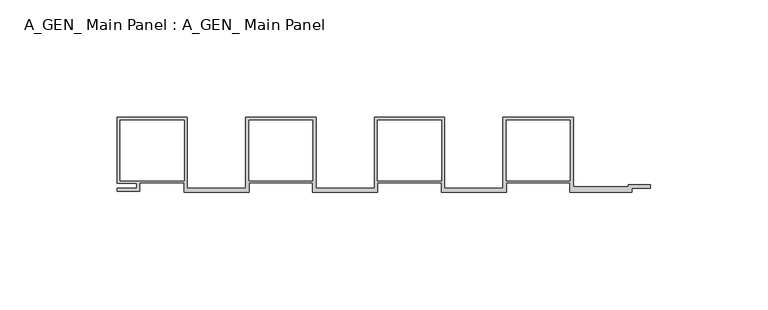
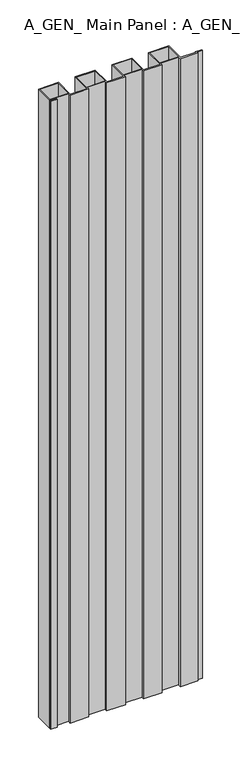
"""IFC4 building model written with IfcOpenShell, lengths in millimetres: proxy geometry, A_GEN_ Main Panel : A_GEN_ Main Panel."""

from ifc_helpers import new_model, si_unit, point, frame_2d, origin, origin_with_axes, place, context, project, spatial, polyline, circle_curve, trimmed, segment, composite_curve, outline, extrude, source, transform, mapped, element, save


def a_gen_main_panel_a_gen_main_panel_c979ea81(model_context):
    return source(origin(), model_context, "Body", "SweptSolid", [
        extrude(outline(composite_curve([segment(polyline([(0.0301449, 32.2007666), (30.0301449, 32.2007666), (30.0301449, 1.85), (55.0270875, 1.85), (55.0270875, 32.2007666), (85.0270875, 32.2007666), (85.0270875, 1.85), (109.9788571, 1.85), (109.9788571, 32.2007666), (140.0240301, 32.2007666), (140.0240301, 1.85), (165.0209727, 1.85), (165.0209727, 32.2007666), (195.0209727, 32.2007666), (195.0209727, 2.4), (218.4753672, 2.4), (218.4753672, 3.2), (227.991216, 3.2), (227.991216, 1.85), (219.9937223, 1.85), (219.9937223, 0.0), (193.6209727, 0.0), (193.6209727, 4.1), (166.4209727, 4.1), (166.4209727, 0.0), (138.6240301, 0.0), (138.6240301, 4.1), (111.4240301, 4.1), (111.4240301, 0.0), (83.6270875, 0.0), (83.6270875, 4.1), (56.4270875, 4.1), (56.4270875, 0.0), (28.6301449, 0.0), (28.6301449, 4.1), (9.6195527, 4.1), (9.6195527, 0.6), (0.0, 0.6), (0.0, 1.7), (8.4195527, 1.7), (8.4195527, 3.9), (0.5290456, 3.9)]), True, "CONTINUOUS"), segment(trimmed(circle_curve(frame_2d((0.5290456, 4.3989007)), 0.4989007), [point((0.5290456, 3.9))], [point((0.0301449, 4.3989007))], False, "CARTESIAN"), True, "CONTINUOUS"), segment(polyline([(0.0301449, 4.3989007), (0.0301449, 32.2007666)]), True, "CONTINUOUS")], self_intersect=False), holes=[polyline([(28.6301449, 5.1), (28.6301449, 30.8007666), (1.4301449, 30.8007666), (1.4301449, 5.1), (28.6301449, 5.1)]), polyline([(56.4270875, 30.8007666), (56.4270875, 5.1), (83.6270875, 5.1), (83.6270875, 30.8007666), (56.4270875, 30.8007666)]), polyline([(111.4240301, 30.8007666), (111.4240301, 5.1), (138.6240301, 5.1), (138.6240301, 30.8007666), (111.4240301, 30.8007666)]), polyline([(166.4209727, 5.1), (193.6209727, 5.1), (193.6209727, 30.8007666), (166.4209727, 30.8007666), (166.4209727, 5.1)])]), origin_with_axes(), (0.0, 0.0, 1.0), 992.5516144),
    ])


if __name__ == "__main__":
    model = new_model("IFC4")
    model_context = context("Model", 3, world=origin())
    ifc_project = project(units=[si_unit("LENGTHUNIT", "METRE", prefix="MILLI")], contexts=[model_context])
    site = spatial("IfcSite", under=ifc_project)
    building = spatial("IfcBuilding", under=site)
    placement = place(None, origin())
    a_gen_main_panel_a_gen_main_panel_shape = a_gen_main_panel_a_gen_main_panel_c979ea81(model_context)
    element("IfcBuildingElementProxy", 1, Name="A_GEN_ Main Panel : A_GEN_ Main Panel", ObjectType="A_GEN_ Main Panel : A_GEN_ Main Panel", at=placement, inside=building, context=model_context, shape_type="MappedRepresentation", body=[
        mapped(a_gen_main_panel_a_gen_main_panel_shape, transform((0.0, 0.0, 0.0), x_axis=(1.0, 0.0, 0.0), y_axis=(0.0, 1.0, 0.0), z_axis=(0.0, 0.0, 1.0))),
    ])
    save(model, "model.ifc")
